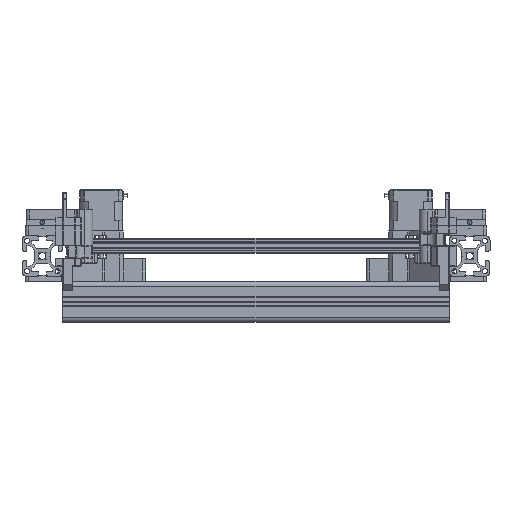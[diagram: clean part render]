
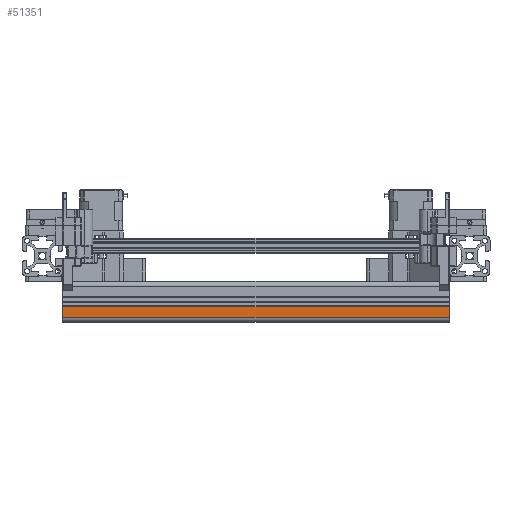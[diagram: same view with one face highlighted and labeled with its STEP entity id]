
A CAD part, front view. The second image highlights one B-rep face of the part: STEP entity #51351.
In plain terms, the highlighted planar face has unit normal (0, -1, 0).
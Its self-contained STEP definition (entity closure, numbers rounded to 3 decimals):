
#6299=LINE('',#85696,#11595);
#6301=LINE('',#85700,#11597);
#6302=LINE('',#85702,#11598);
#6303=LINE('',#85704,#11599);
#11595=VECTOR('',#70444,1000.);
#11597=VECTOR('',#70448,1000.);
#11598=VECTOR('',#70449,1000.);
#11599=VECTOR('',#70450,1000.);
#24300=ORIENTED_EDGE('',*,*,#32472,.T.);
#24301=ORIENTED_EDGE('',*,*,#32473,.F.);
#24302=ORIENTED_EDGE('',*,*,#32474,.F.);
#24303=ORIENTED_EDGE('',*,*,#32470,.T.);
#32470=EDGE_CURVE('',#37432,#37431,#6299,.T.);
#32472=EDGE_CURVE('',#37431,#37433,#6301,.T.);
#32473=EDGE_CURVE('',#37434,#37433,#6302,.T.);
#32474=EDGE_CURVE('',#37432,#37434,#6303,.T.);
#37431=VERTEX_POINT('',#85695);
#37432=VERTEX_POINT('',#85697);
#37433=VERTEX_POINT('',#85701);
#37434=VERTEX_POINT('',#85703);
#42791=EDGE_LOOP('',(#24300,#24301,#24302,#24303));
#46455=FACE_BOUND('',#42791,.T.);
#48516=PLANE('',#57332);
#51351=ADVANCED_FACE('',(#46455),#48516,.F.);
#57332=AXIS2_PLACEMENT_3D('',#85699,#70446,#70447);
#70444=DIRECTION('',(0.,0.,-1.));
#70446=DIRECTION('',(0.,1.,0.));
#70447=DIRECTION('',(0.,0.,1.));
#70448=DIRECTION('',(1.,0.,0.));
#70449=DIRECTION('',(0.,0.,-1.));
#70450=DIRECTION('',(1.,0.,0.));
#85695=CARTESIAN_POINT('',(105.1,-20.,0.));
#85696=CARTESIAN_POINT('',(105.1,-20.,380.));
#85697=CARTESIAN_POINT('',(105.1,-20.,380.));
#85699=CARTESIAN_POINT('',(115.2,-20.,380.));
#85700=CARTESIAN_POINT('',(115.2,-20.,0.));
#85701=CARTESIAN_POINT('',(115.5,-20.,0.));
#85702=CARTESIAN_POINT('',(115.5,-20.,380.));
#85703=CARTESIAN_POINT('',(115.5,-20.,380.));
#85704=CARTESIAN_POINT('',(115.2,-20.,380.));
